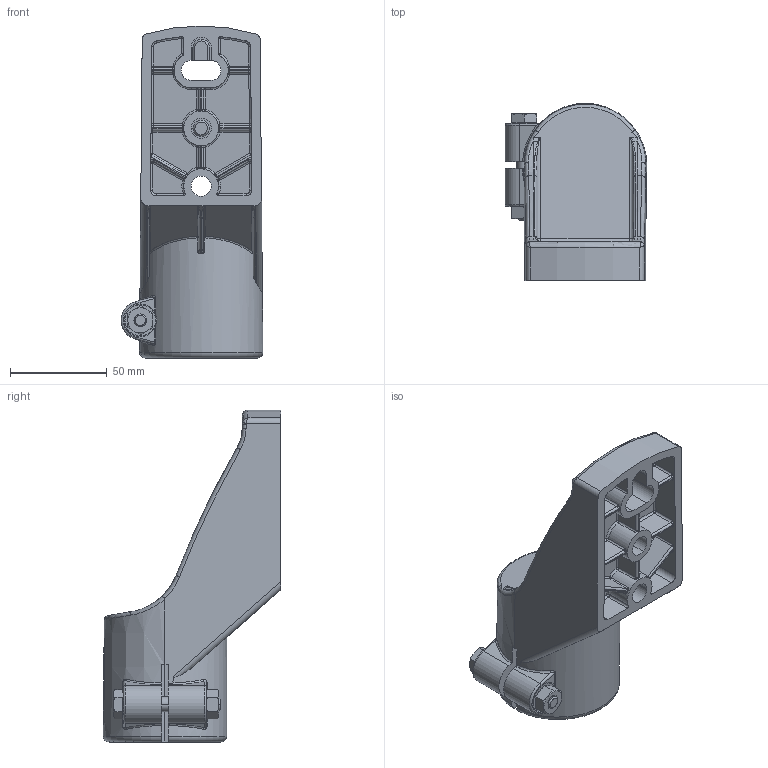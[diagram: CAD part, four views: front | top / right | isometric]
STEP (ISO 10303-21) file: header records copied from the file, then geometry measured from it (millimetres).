
FILE_DESCRIPTION(('CATIA V5 STEP Exchange'),'2;1');
FILE_NAME('\\server01\tecnico\CODICI MOVEX\3D per clienti\Tom\16-11-2012\P40702_01.stp','2012-11-16T15:33:12+00:00',('none'),('none'),'CATIA Version 5 Release 21 SP 1 (IN-10)','CATIA V5 STEP AP203','none');
FILE_SCHEMA(('CONFIG_CONTROL_DESIGN'));
Length unit declared in the file: millimetre
Products named in the file (1): Product1
Assembly tree (5 placements, depth 2):
  Product1
    #58
    #32554
    #33138
    #33686  x2
Bounding box: 73.44 x 91.96 x 172 mm (x, y, z)
Volume: 203421.1 mm3; surface area: 74816.8 mm2
Topology: 5 solids, 5 shells, 978 faces, 2686 edges, 1685 vertices
Faces by surface type: plane 609, cylinder 198, torus 60, sphere 42, bspline 41, cone 20, extrusion 8
Entity records: 33849 total; most frequent: CARTESIAN_POINT 12667, ORIENTED_EDGE 5256, DIRECTION 2930, EDGE_CURVE 2628, VERTEX_POINT 1677, B_SPLINE_CURVE_WITH_KNOTS 1282, AXIS2_PLACEMENT_3D 1231, EDGE_LOOP 997
